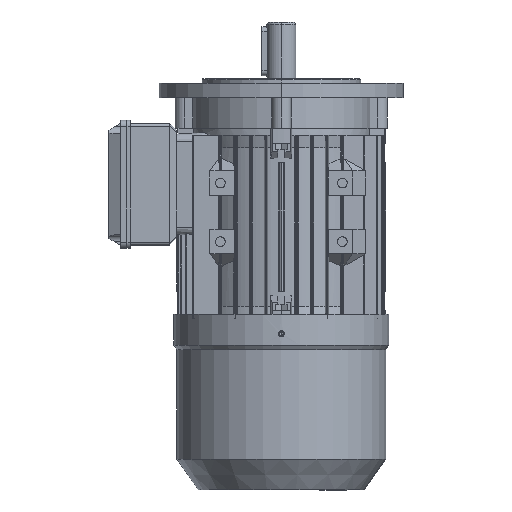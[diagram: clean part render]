
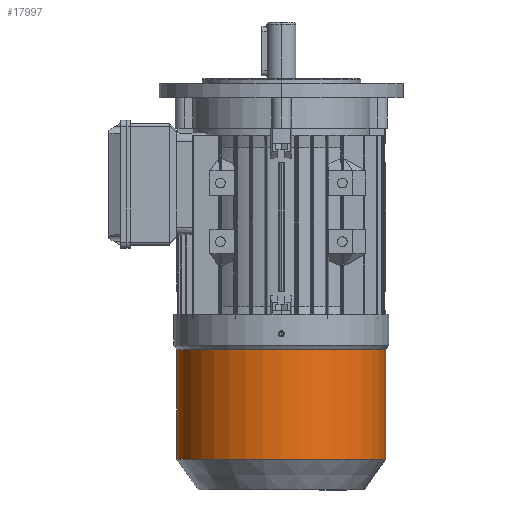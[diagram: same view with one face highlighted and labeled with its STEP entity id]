
A CAD part, left-side view. The second image highlights one B-rep face of the part: STEP entity #17997.
In plain terms, the highlighted cylindrical face has radius 85.5 mm (diameter 171 mm), a partial arc.
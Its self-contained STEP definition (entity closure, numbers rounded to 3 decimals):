
#6618 = AXIS2_PLACEMENT_3D ( 'NONE', #50287, #50288, #50290 ) ;
#6619 = AXIS2_PLACEMENT_3D ( 'NONE', #50296, #50298, #50300 ) ;
#9369 = CARTESIAN_POINT ( 'NONE',  ( 118.904, -85.5, 0. ) ) ;
#9370 = CARTESIAN_POINT ( 'NONE',  ( 118.904, 85.5, 0. ) ) ;
#9371 = CARTESIAN_POINT ( 'NONE',  ( 28.904, 85.5, 0. ) ) ;
#9372 = CARTESIAN_POINT ( 'NONE',  ( 28.904, -85.5, 0. ) ) ;
#15520 = EDGE_LOOP ( 'NONE', ( #40268, #40269, #40270, #40271 ) ) ;
#17997 = ADVANCED_FACE ( 'NONE', ( #83925 ), #83928, .T. ) ;
#21114 = VERTEX_POINT ( 'NONE', #9369 ) ;
#21115 = VERTEX_POINT ( 'NONE', #9370 ) ;
#21116 = VERTEX_POINT ( 'NONE', #9371 ) ;
#21117 = VERTEX_POINT ( 'NONE', #9372 ) ;
#29441 = LINE ( 'NONE', #35433, #29449 ) ;
#29443 = LINE ( 'NONE', #35441, #29455 ) ;
#29449 = VECTOR ( 'NONE', #35439, 1000. ) ;
#29455 = VECTOR ( 'NONE', #35438, 1000. ) ;
#31628 = EDGE_CURVE ( 'NONE', #21115, #21116, #29441, .T. ) ;
#31633 = EDGE_CURVE ( 'NONE', #21114, #21117, #29443, .T. ) ;
#35433 = CARTESIAN_POINT ( 'NONE',  ( 0., 85.5, 0. ) ) ;
#35438 = DIRECTION ( 'NONE',  ( -1., 0., 0. ) ) ;
#35439 = DIRECTION ( 'NONE',  ( -1., 0., 0. ) ) ;
#35441 = CARTESIAN_POINT ( 'NONE',  ( 0., -85.5, 0. ) ) ;
#39353 = EDGE_CURVE ( 'NONE', #21116, #21117, #51825, .T. ) ;
#39356 = EDGE_CURVE ( 'NONE', #21115, #21114, #51823, .T. ) ;
#40268 = ORIENTED_EDGE ( 'NONE', *, *, #31628, .F. ) ;
#40269 = ORIENTED_EDGE ( 'NONE', *, *, #39356, .T. ) ;
#40270 = ORIENTED_EDGE ( 'NONE', *, *, #31633, .T. ) ;
#40271 = ORIENTED_EDGE ( 'NONE', *, *, #39353, .F. ) ;
#50287 = CARTESIAN_POINT ( 'NONE',  ( 28.904, 0., 0. ) ) ;
#50288 = DIRECTION ( 'NONE',  ( -1., 0., 0. ) ) ;
#50290 = DIRECTION ( 'NONE',  ( 0., -1., 0. ) ) ;
#50296 = CARTESIAN_POINT ( 'NONE',  ( 118.904, 0., 0. ) ) ;
#50298 = DIRECTION ( 'NONE',  ( -1., 0., 0. ) ) ;
#50300 = DIRECTION ( 'NONE',  ( 0., -1., 0. ) ) ;
#51823 = CIRCLE ( 'NONE', #6619, 85.5 ) ;
#51825 = CIRCLE ( 'NONE', #6618, 85.5 ) ;
#76321 = AXIS2_PLACEMENT_3D ( 'NONE', #82900, #82896, #82897 ) ;
#82896 = DIRECTION ( 'NONE',  ( -1., 0., 0. ) ) ;
#82897 = DIRECTION ( 'NONE',  ( 0., -1., 0. ) ) ;
#82900 = CARTESIAN_POINT ( 'NONE',  ( 0., 0., 0. ) ) ;
#83925 = FACE_OUTER_BOUND ( 'NONE', #15520, .T. ) ;
#83928 = CYLINDRICAL_SURFACE ( 'NONE', #76321, 85.5 ) ;
